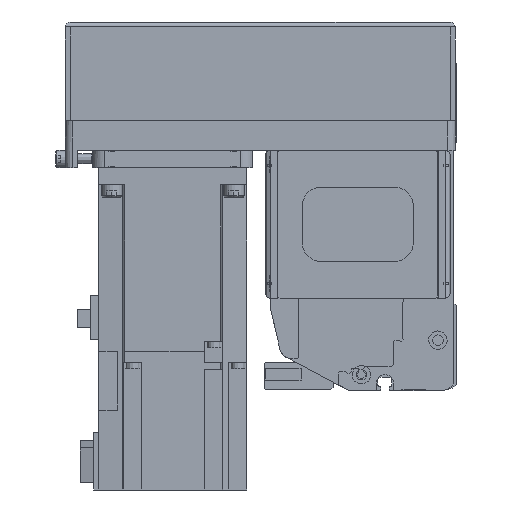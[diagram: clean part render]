
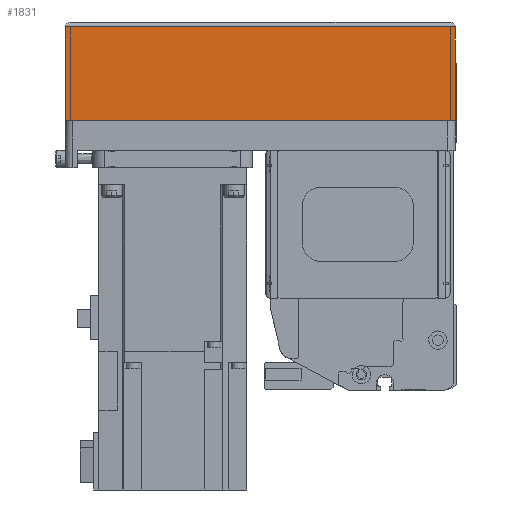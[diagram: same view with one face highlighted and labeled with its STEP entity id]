
A CAD part, left-side view. The second image highlights one B-rep face of the part: STEP entity #1831.
In plain terms, the highlighted planar face has unit normal (-1, 0, 0) as drawn and (0, 1, 0) by its records, which use the part's own axes.
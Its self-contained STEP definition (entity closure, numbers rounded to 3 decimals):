
#1831 = ADVANCED_FACE( '', ( #4546 ), #4547, .T. );
#4546 = FACE_OUTER_BOUND( '', #8473, .T. );
#4547 = PLANE( '', #8474 );
#8473 = EDGE_LOOP( '', ( #13768, #13769, #13770, #13771 ) );
#8474 = AXIS2_PLACEMENT_3D( '', #13772, #13773, #13774 );
#13768 = ORIENTED_EDGE( '', *, *, #22957, .F. );
#13769 = ORIENTED_EDGE( '', *, *, #22958, .F. );
#13770 = ORIENTED_EDGE( '', *, *, #22906, .T. );
#13771 = ORIENTED_EDGE( '', *, *, #22959, .T. );
#13772 = CARTESIAN_POINT( '', ( -158., 39., -50. ) );
#13773 = DIRECTION( '', ( 0., 1., 0. ) );
#13774 = DIRECTION( '', ( 0., 0., 1. ) );
#22906 = EDGE_CURVE( '', #25950, #27032, #27729, .T. );
#22957 = EDGE_CURVE( '', #27812, #27813, #27814, .T. );
#22958 = EDGE_CURVE( '', #25950, #27812, #27815, .T. );
#22959 = EDGE_CURVE( '', #27032, #27813, #27816, .T. );
#25950 = VERTEX_POINT( '', #31913 );
#27032 = VERTEX_POINT( '', #33594 );
#27729 = LINE( '', #34694, #34695 );
#27812 = VERTEX_POINT( '', #34855 );
#27813 = VERTEX_POINT( '', #34856 );
#27814 = LINE( '', #34857, #34858 );
#27815 = LINE( '', #34859, #34860 );
#27816 = LINE( '', #34861, #34862 );
#31913 = CARTESIAN_POINT( '', ( -158., 39., -50. ) );
#33594 = CARTESIAN_POINT( '', ( -158., 39., -12.1 ) );
#34694 = CARTESIAN_POINT( '', ( -158., 39., -50. ) );
#34695 = VECTOR( '', #42408, 1000. );
#34855 = CARTESIAN_POINT( '', ( 0., 39., -50. ) );
#34856 = CARTESIAN_POINT( '', ( 0., 39., -12.1 ) );
#34857 = CARTESIAN_POINT( '', ( 0., 39., -50. ) );
#34858 = VECTOR( '', #42458, 1000. );
#34859 = CARTESIAN_POINT( '', ( -158., 39., -50. ) );
#34860 = VECTOR( '', #42459, 1000. );
#34861 = CARTESIAN_POINT( '', ( -158., 39., -12.1 ) );
#34862 = VECTOR( '', #42460, 1000. );
#42408 = DIRECTION( '', ( 0., 0., 1. ) );
#42458 = DIRECTION( '', ( 0., 0., 1. ) );
#42459 = DIRECTION( '', ( 1., 0., 0. ) );
#42460 = DIRECTION( '', ( 1., 0., 0. ) );
